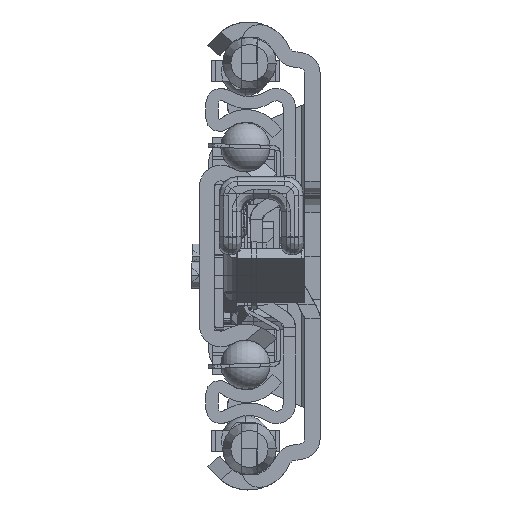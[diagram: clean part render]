
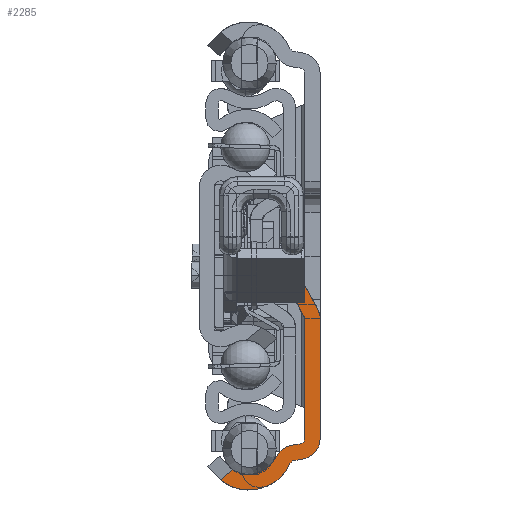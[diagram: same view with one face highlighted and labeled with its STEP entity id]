
A CAD part, left-side view. The second image highlights one B-rep face of the part: STEP entity #2285.
In plain terms, the highlighted planar face has unit normal (-1, 0, 0).
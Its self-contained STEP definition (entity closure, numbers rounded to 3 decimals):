
#45=DIRECTION('',(0.,0.769,-0.639));
#46=VECTOR('',#45,2.575);
#47=CARTESIAN_POINT('',(0.,14.098,-34.377));
#48=LINE('',#47,#46);
#49=CARTESIAN_POINT('',(0.,11.5,-30.4));
#50=DIRECTION('',(-1.,0.,0.));
#51=DIRECTION('',(0.,0.547,-0.837));
#52=AXIS2_PLACEMENT_3D('',#49,#50,#51);
#54=CARTESIAN_POINT('',(0.,4.008,-33.854));
#55=DIRECTION('',(-1.,0.,0.));
#56=DIRECTION('',(0.,0.087,0.996));
#57=AXIS2_PLACEMENT_3D('',#54,#55,#56);
#59=DIRECTION('',(0.,-0.996,0.087));
#60=VECTOR('',#59,0.904);
#61=CARTESIAN_POINT('',(0.,4.313,-30.368));
#62=LINE('',#61,#60);
#63=DIRECTION('',(0.,0.,1.));
#64=VECTOR('',#63,19.293);
#65=CARTESIAN_POINT('',(0.,2.5,-29.293));
#66=LINE('',#65,#64);
#67=DIRECTION('',(0.,-0.477,-0.879));
#68=VECTOR('',#67,6.873);
#69=CARTESIAN_POINT('',(0.,5.775,-3.958));
#70=LINE('',#69,#68);
#71=CARTESIAN_POINT('',(0.,0.5,-1.099));
#72=DIRECTION('',(-1.,0.,0.));
#73=DIRECTION('',(0.,0.946,-0.324));
#74=AXIS2_PLACEMENT_3D('',#71,#72,#73);
#76=DIRECTION('',(0.,1.,0.));
#77=VECTOR('',#76,2.78);
#78=CARTESIAN_POINT('',(0.,3.397,-3.04));
#79=LINE('',#78,#77);
#80=CARTESIAN_POINT('',(0.,2.5,-9.942));
#81=DIRECTION('',(1.,0.,0.));
#82=DIRECTION('',(0.,-0.879,0.477));
#83=AXIS2_PLACEMENT_3D('',#80,#81,#82);
#85=CARTESIAN_POINT('',(0.,3.5,-29.293));
#86=DIRECTION('',(-1.,0.,0.));
#87=DIRECTION('',(0.,-0.087,-0.996));
#88=AXIS2_PLACEMENT_3D('',#85,#86,#87);
#90=DIRECTION('',(0.,0.996,-0.087));
#91=VECTOR('',#90,0.904);
#92=CARTESIAN_POINT('',(0.,3.195,-32.78));
#93=LINE('',#92,#91);
#94=CARTESIAN_POINT('',(0.,11.5,-30.4));
#95=DIRECTION('',(1.,0.,0.));
#96=DIRECTION('',(0.,-0.908,-0.419));
#97=AXIS2_PLACEMENT_3D('',#94,#95,#96);
#615=DIRECTION('',(0.,0.,1.));
#616=VECTOR('',#615,19.351);
#617=CARTESIAN_POINT('',(0.,0.,-29.293));
#618=LINE('',#617,#616);
#1023=CARTESIAN_POINT('',(0.,16.079,
-36.021));
#1077=CARTESIAN_POINT('',(0.,14.098,
-34.377));
#1366=CARTESIAN_POINT('',(0.,3.5,-29.293));
#1367=DIRECTION('',(1.,0.,0.));
#1368=DIRECTION('',(0.,-1.,0.));
#1369=AXIS2_PLACEMENT_3D('',#1366,#1367,#1368);
#1376=CARTESIAN_POINT('',(0.,4.008,-33.854));
#1377=DIRECTION('',(1.,0.,0.));
#1378=DIRECTION('',(0.,0.908,0.419));
#1379=AXIS2_PLACEMENT_3D('',#1376,#1377,#1378);
#1416=DIRECTION('',(0.,0.477,0.879));
#1417=VECTOR('',#1416,6.495);
#1418=CARTESIAN_POINT('',(0.,0.302,-8.751));
#1419=LINE('',#1418,#1417);
#1423=CARTESIAN_POINT('',(0.,3.397,-3.04));
#1537=CARTESIAN_POINT('',(0.,6.177,-3.04));
#1730=CARTESIAN_POINT('',(0.,2.5,-29.293));
#1731=CARTESIAN_POINT('',(0.,3.413,-30.289));
#1732=VERTEX_POINT('',#1730);
#1733=VERTEX_POINT('',#1731);
#1742=CARTESIAN_POINT('',(0.,4.916,-33.436));
#1743=CARTESIAN_POINT('',(0.,4.095,-32.858));
#1744=VERTEX_POINT('',#1742);
#1745=VERTEX_POINT('',#1743);
#1746=CARTESIAN_POINT('',(0.,4.313,-30.368));
#1747=CARTESIAN_POINT('',(0.,7.186,-32.389));
#1748=VERTEX_POINT('',#1746);
#1749=VERTEX_POINT('',#1747);
#1758=CARTESIAN_POINT('',(0.,3.195,-32.78));
#1759=CARTESIAN_POINT('',(0.,0.,-29.293));
#1760=VERTEX_POINT('',#1758);
#1761=VERTEX_POINT('',#1759);
#2130=VERTEX_POINT('',#1023);
#2138=VERTEX_POINT('',#1077);
#2163=CARTESIAN_POINT('',(0.,2.5,-10.));
#2164=VERTEX_POINT('',#2163);
#2201=VERTEX_POINT('',#1423);
#2202=CARTESIAN_POINT('',(0.,0.302,-8.751));
#2203=VERTEX_POINT('',#2202);
#2205=CARTESIAN_POINT('',(0.,0.,-9.942));
#2206=VERTEX_POINT('',#2205);
#2211=VERTEX_POINT('',#1537);
#2212=CARTESIAN_POINT('',(0.,5.775,-3.958));
#2213=VERTEX_POINT('',#2212);
#2246=CARTESIAN_POINT('',(0.,0.,0.));
#2247=DIRECTION('',(1.,0.,0.));
#2248=DIRECTION('',(0.,-1.,0.));
#2249=AXIS2_PLACEMENT_3D('',#2246,#2247,#2248);
#2250=PLANE('',#2249);
#2252=ORIENTED_EDGE('',*,*,#2251,.F.);
#2254=ORIENTED_EDGE('',*,*,#2253,.T.);
#2256=ORIENTED_EDGE('',*,*,#2255,.F.);
#2258=ORIENTED_EDGE('',*,*,#2257,.T.);
#2260=ORIENTED_EDGE('',*,*,#2259,.F.);
#2262=ORIENTED_EDGE('',*,*,#2261,.T.);
#2264=ORIENTED_EDGE('',*,*,#2263,.F.);
#2266=ORIENTED_EDGE('',*,*,#2265,.F.);
#2268=ORIENTED_EDGE('',*,*,#2267,.F.);
#2270=ORIENTED_EDGE('',*,*,#2269,.F.);
#2272=ORIENTED_EDGE('',*,*,#2271,.T.);
#2274=ORIENTED_EDGE('',*,*,#2273,.F.);
#2276=ORIENTED_EDGE('',*,*,#2275,.F.);
#2278=ORIENTED_EDGE('',*,*,#2277,.T.);
#2280=ORIENTED_EDGE('',*,*,#2279,.F.);
#2282=ORIENTED_EDGE('',*,*,#2281,.T.);
#2283=EDGE_LOOP('',(#2252,#2254,#2256,#2258,#2260,#2262,#2264,#2266,#2268,#2270,
#2272,#2274,#2276,#2278,#2280,#2282));
#2284=FACE_OUTER_BOUND('',#2283,.F.);
#53=CIRCLE('',#52,4.75);
#58=CIRCLE('',#57,3.5);
#75=CIRCLE('',#74,6.);
#84=CIRCLE('',#83,2.5);
#89=CIRCLE('',#88,3.5);
#98=CIRCLE('',#97,7.25);
#1370=CIRCLE('',#1369,1.);
#1380=CIRCLE('',#1379,1.);
#2251=EDGE_CURVE('',#2138,#2130,#48,.T.);
#2253=EDGE_CURVE('',#2138,#1749,#53,.T.);
#2255=EDGE_CURVE('',#1748,#1749,#58,.T.);
#2257=EDGE_CURVE('',#1748,#1733,#62,.T.);
#2259=EDGE_CURVE('',#1732,#1733,#1370,.T.);
#2261=EDGE_CURVE('',#1732,#2164,#66,.T.);
#2263=EDGE_CURVE('',#2213,#2164,#70,.T.);
#2265=EDGE_CURVE('',#2211,#2213,#75,.T.);
#2267=EDGE_CURVE('',#2201,#2211,#79,.T.);
#2269=EDGE_CURVE('',#2203,#2201,#1419,.T.);
#2271=EDGE_CURVE('',#2203,#2206,#84,.T.);
#2273=EDGE_CURVE('',#1761,#2206,#618,.T.);
#2275=EDGE_CURVE('',#1760,#1761,#89,.T.);
#2277=EDGE_CURVE('',#1760,#1745,#93,.T.);
#2279=EDGE_CURVE('',#1744,#1745,#1380,.T.);
#2281=EDGE_CURVE('',#1744,#2130,#98,.T.);
#2285=ADVANCED_FACE('',(#2284),#2250,.F.);
